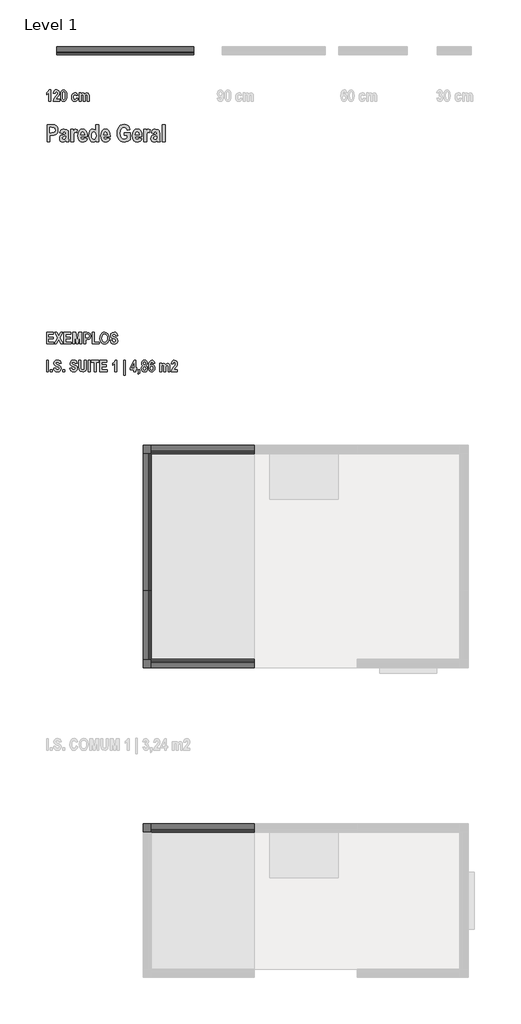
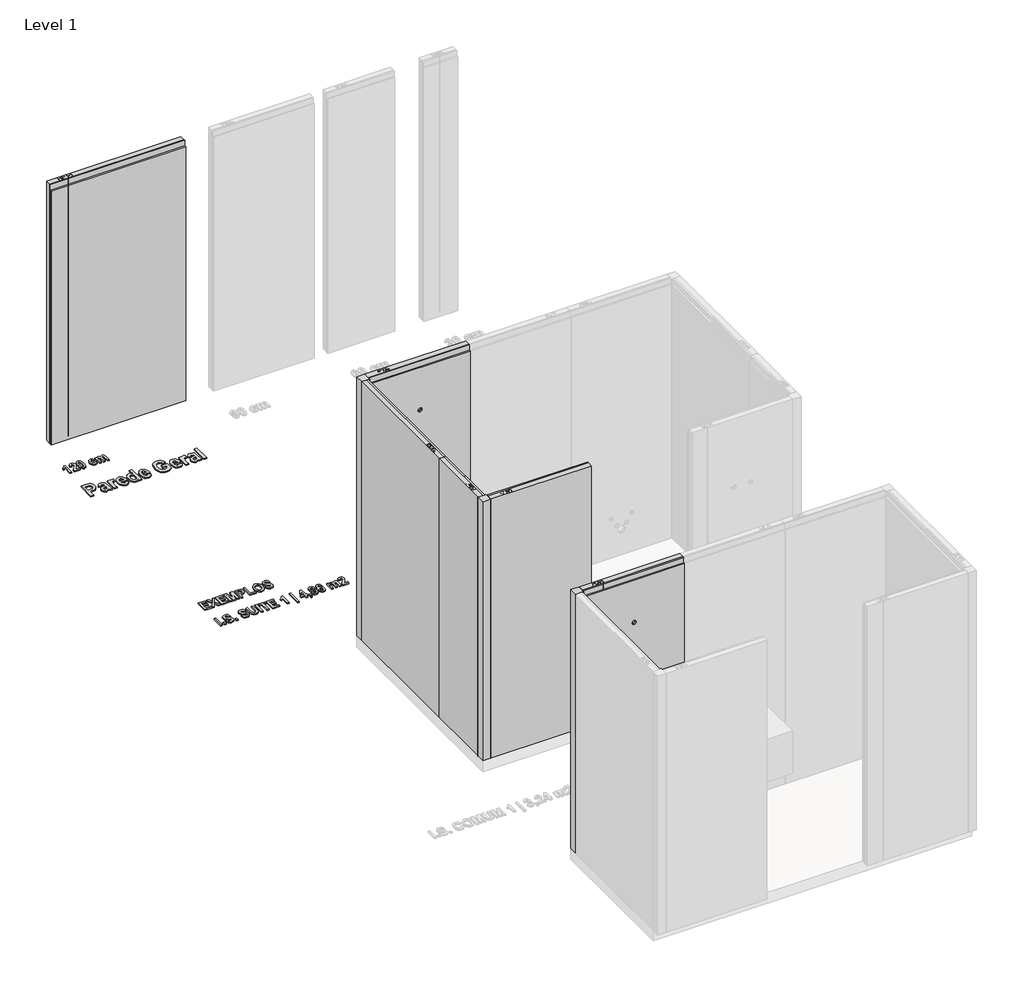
# One storey, part 4 of 10: 13 proxies.
"""IFC4 building model written with IfcOpenShell, lengths in millimetres."""

from ifc_helpers import new_model, si_unit, origin, origin_with_axes, place, context, project, spatial, polyline, outline, extrude, transform, mapped, element, save
from components import generic_models_3c551f1f, generic_models_87fa6935, generic_models_8d7f3108, generic_models_87e237a0, generic_models_7c24a650

model = new_model("IFC4")

# Units and contexts
model_context = context("Model", 3, world=origin())
ifc_project = project(units=[si_unit("LENGTHUNIT", "METRE", prefix="MILLI")], contexts=[model_context])

# Site, building, storey
site = spatial("IfcSite", under=ifc_project)
building = spatial("IfcBuilding", under=site)
storey = spatial("IfcBuildingStorey", under=building, Name="Level 1", Elevation=0.0)

# Proxies
placement = place(None, origin())
generic_models_shape = generic_models_3c551f1f(model_context)
element("IfcBuildingElementProxy", 1, Name="ParedeGeral_Blufab : Parede Geral - Largura 60 cm", ObjectType="ParedeGeral_Blufab : Parede Geral - Largura 60 cm", at=placement, inside=storey, context=model_context, shape_type="MappedRepresentation", body=[
    mapped(generic_models_shape, transform((-8771.3404571, 2627.3727477, 0.0), x_axis=(0.0, 1.0, 0.0), y_axis=(-1.0, 0.0, 0.0), z_axis=(0.0, 0.0, 1.0))),
])
generic_models_2_shape = generic_models_87fa6935(model_context)
element("IfcBuildingElementProxy", 2, Name="ParedeGeral_Blufab : Parede Geral - Largura 120 cm", ObjectType="ParedeGeral_Blufab : Parede Geral - Largura 120 cm", at=placement, inside=storey, context=model_context, shape_type="MappedRepresentation", body=[
    mapped(generic_models_2_shape, transform((-9600.8727752, 7918.7563997, 0.0), x_axis=(1.0, 0.0, 0.0), y_axis=(0.0, 1.0, 0.0), z_axis=(0.0, 0.0, 1.0))),
])
element("IfcBuildingElementProxy", 3, Name="ParedeGeral_Blufab : Parede Geral - Largura 120 cm", ObjectType="ParedeGeral_Blufab : Parede Geral - Largura 120 cm", at=placement, inside=storey, context=model_context, shape_type="MappedRepresentation", body=[
    mapped(generic_models_2_shape, transform((-8771.3404571, 3227.3727477, 0.0), x_axis=(0.0, 1.0, 0.0), y_axis=(-1.0, 0.0, 0.0), z_axis=(0.0, 0.0, 1.0))),
])
generic_models_3_shape = generic_models_8d7f3108(model_context)
element("IfcBuildingElementProxy", 4, Name="ParedeDuche_Blufab : Parede Duche- Largura 90 cm", ObjectType="ParedeDuche_Blufab : Parede Duche- Largura 90 cm", at=placement, inside=storey, context=model_context, shape_type="MappedRepresentation", body=[
    mapped(generic_models_3_shape, transform((-8771.3404571, 4427.3727477, 0.0), x_axis=(1.0, 0.0, 0.0), y_axis=(0.0, 1.0, 0.0), z_axis=(0.0, 0.0, 1.0))),
])
element("IfcBuildingElementProxy", 5, Name="ParedeDuche_Blufab : Parede Duche- Largura 90 cm", ObjectType="ParedeDuche_Blufab : Parede Duche- Largura 90 cm", at=placement, inside=storey, context=model_context, shape_type="MappedRepresentation", body=[
    mapped(generic_models_3_shape, transform((-8771.3404571, 1114.1909428, 0.0), x_axis=(1.0, 0.0, 0.0), y_axis=(0.0, 1.0, 0.0), z_axis=(0.0, 0.0, 1.0))),
])
generic_models_4_shape = generic_models_87e237a0(model_context)
element("IfcBuildingElementProxy", 6, Name="PerfilCanto_Blufab : Parede Geral - Largura 60 cm", ObjectType="PerfilCanto_Blufab : Parede Geral - Largura 60 cm", at=placement, inside=storey, context=model_context, shape_type="MappedRepresentation", body=[
    mapped(generic_models_4_shape, transform((-8844.3404571, 4427.3727477, 0.0), x_axis=(1.0, 0.0, 0.0), y_axis=(0.0, 1.0, 0.0), z_axis=(0.0, 0.0, 1.0))),
])
element("IfcBuildingElementProxy", 7, Name="PerfilCanto_Blufab : Parede Geral - Largura 60 cm", ObjectType="PerfilCanto_Blufab : Parede Geral - Largura 60 cm", at=placement, inside=storey, context=model_context, shape_type="MappedRepresentation", body=[
    mapped(generic_models_4_shape, transform((-8844.3404571, 2554.3727477, 0.0), x_axis=(1.0, 0.0, 0.0), y_axis=(0.0, 1.0, 0.0), z_axis=(0.0, 0.0, 1.0))),
])
element("IfcBuildingElementProxy", 8, Name="PerfilCanto_Blufab : Parede Geral - Largura 60 cm", ObjectType="PerfilCanto_Blufab : Parede Geral - Largura 60 cm", at=placement, inside=storey, context=model_context, shape_type="MappedRepresentation", body=[
    mapped(generic_models_4_shape, transform((-8844.3404571, 1114.1909428, 0.0), x_axis=(1.0, 0.0, 0.0), y_axis=(0.0, 1.0, 0.0), z_axis=(0.0, 0.0, 1.0))),
])
generic_models_5_shape = generic_models_7c24a650(model_context)
element("IfcBuildingElementProxy", 9, Name="ParedeGeral_Blufab : Parede Geral - Largura 90 cm", ObjectType="ParedeGeral_Blufab : Parede Geral - Largura 90 cm", at=placement, inside=storey, context=model_context, shape_type="MappedRepresentation", body=[
    mapped(generic_models_5_shape, transform((-8771.3404571, 2627.3727477, 0.0), x_axis=(1.0, 0.0, 0.0), y_axis=(0.0, 1.0, 0.0), z_axis=(0.0, 0.0, 1.0))),
])
element("IfcBuildingElementProxy", 10, Name="24\" Arial", ObjectType="24\" Arial", at=placement, inside=storey, context=model_context, shape_type="SweptSolid", body=[
    extrude(outline(polyline([(-9652.6551906, 7512.8748163), (-9668.9001267, 7512.8748163), (-9668.9001267, 7585.9770287), (-9688.39405, 7571.3565863), (-9688.39405, 7589.226016), (-9674.9285209, 7598.3891752), (-9665.245016, 7613.5934201), (-9652.6551906, 7613.5934201), (-9652.6551906, 7512.8748163)])), origin_with_axes(), (0.0, 0.0, 1.0), 10.0),
    extrude(outline(polyline([(-9576.303991, 7529.1197524), (-9576.303991, 7512.8748163), (-9631.5367737, 7512.8748163), (-9626.1556386, 7532.0768385), (-9608.6923323, 7555.9746624), (-9596.0517414, 7571.9150059), (-9592.548927, 7584.1240907), (-9595.3790995, 7594.0106573), (-9602.803543, 7597.348484), (-9610.5579617, 7593.6933734), (-9613.667344, 7582.7280415), (-9629.9122801, 7584.3525351), (-9627.0503792, 7597.446842), (-9621.3583059, 7606.5243346), (-9613.0771959, 7611.8261487), (-9602.448185, 7613.5934201), (-9591.0735569, 7611.4485809), (-9582.8908049, 7605.0140632), (-9577.9506944, 7595.8064842), (-9576.303991, 7585.3424609), (-9577.97925, 7573.1714502), (-9583.144632, 7561.3050321), (-9594.7826058, 7546.0754045), (-9604.3899625, 7534.5516529), (-9607.6516411, 7529.1197524), (-9576.303991, 7529.1197524)])), origin_with_axes(), (0.0, 0.0, 1.0), 10.0),
    extrude(outline(polyline([(-9539.7782675, 7613.5934201), (-9528.9208121, 7610.7473834), (-9520.3604923, 7602.2092735), (-9514.8016782, 7586.564004), (-9512.9487402, 7562.3964887), (-9514.8016782, 7538.2670475), (-9520.3604923, 7522.6344693), (-9528.9081208, 7514.0963594), (-9539.727502, 7511.2503227), (-9550.5849574, 7514.0709767), (-9559.1452772, 7522.5329385), (-9564.7040913, 7538.1908994), (-9566.5570293, 7562.5995504), (-9564.7040913, 7586.6147694), (-9559.1452772, 7602.2092735), (-9550.5976487, 7610.7473834), (-9539.7782675, 7613.5934201)]), holes=[polyline([(-9539.7528848, 7597.348484), (-9547.4438467, 7591.256633), (-9550.3120932, 7562.3964887), (-9547.4438467, 7533.5617271), (-9539.7528848, 7527.4952588), (-9532.0238488, 7533.5871099), (-9529.1936763, 7562.3964887), (-9532.0238488, 7591.256633), (-9539.7528848, 7597.348484)])]), origin_with_axes(), (0.0, 0.0, 1.0), 10.0),
    extrude(outline(polyline([(-9415.4791237, 7564.8586118), (-9431.7240598, 7561.6096246), (-9435.1316889, 7568.9198458), (-9442.0548238, 7571.3565863), (-9451.0529954, 7566.5719449), (-9454.4669703, 7550.4158483), (-9451.1672176, 7532.6733322), (-9442.3340336, 7527.4952588), (-9435.5314667, 7530.3635053), (-9431.7240598, 7540.4912077), (-9415.4791237, 7537.2422205), (-9418.932759, 7525.8707652), (-9424.5978632, 7517.7482972), (-9432.4744362, 7512.8748163), (-9442.5624781, 7511.2503227), (-9455.0285628, 7514.0360754), (-9463.7951172, 7522.3933336), (-9468.9827091, 7534.6722208), (-9470.7119064, 7549.2228608), (-9468.7257091, 7565.7596981), (-9462.7671173, 7577.8037953), (-9453.584921, 7585.1520906), (-9441.9279102, 7587.6015223), (-9432.4601584, 7586.2403744), (-9424.9214928, 7582.1569305), (-9415.4791237, 7564.8586118)])), origin_with_axes(), (0.0, 0.0, 1.0), 10.0),
    extrude(outline(polyline([(-9404.1076684, 7585.9770287), (-9389.4872259, 7585.9770287), (-9389.4872259, 7576.0777708), (-9380.9332518, 7584.7459672), (-9370.8816976, 7587.6015223), (-9360.9443656, 7584.7332758), (-9354.0529591, 7576.0523881), (-9345.5497504, 7584.7332758), (-9335.8789368, 7587.6015223), (-9325.3831852, 7584.6825104), (-9318.682149, 7576.3189066), (-9316.3850135, 7559.6043903), (-9316.3850135, 7512.8748163), (-9332.6299496, 7512.8748163), (-9332.6299496, 7553.6394528), (-9334.495579, 7567.8283892), (-9340.7524177, 7571.3565863), (-9349.0017993, 7566.4196487), (-9352.1238729, 7547.1160957), (-9352.1238729, 7512.8748163), (-9368.368809, 7512.8748163), (-9368.368809, 7551.9641938), (-9369.6125619, 7566.9146115), (-9376.2882154, 7571.3565863), (-9382.50698, 7569.0721421), (-9386.606288, 7562.3964887), (-9387.8627323, 7547.5222191), (-9387.8627323, 7512.8748163), (-9404.1076684, 7512.8748163), (-9404.1076684, 7585.9770287)])), origin_with_axes(), (0.0, 0.0, 1.0), 10.0),
])
element("IfcBuildingElementProxy", 11, Name="24\" Arial", ObjectType="24\" Arial", at=placement, inside=storey, context=model_context, shape_type="SweptSolid", body=[
    extrude(outline(polyline([(-9690.0185436, 5388.6216532), (-9690.0185436, 5489.340257), (-9629.9122801, 5489.340257), (-9629.9122801, 5473.0953209), (-9673.7736075, 5473.0953209), (-9673.7736075, 5448.7279168), (-9633.1612673, 5448.7279168), (-9633.1612673, 5432.4829807), (-9673.7736075, 5432.4829807), (-9673.7736075, 5404.8665893), (-9628.2877864, 5404.8665893), (-9628.2877864, 5388.6216532), (-9690.0185436, 5388.6216532)])), origin_with_axes(), (0.0, 0.0, 1.0), 10.0),
    extrude(outline(polyline([(-9621.789812, 5388.6216532), (-9592.7012233, 5441.9507325), (-9618.5408248, 5489.340257), (-9600.3668025, 5489.340257), (-9583.6142122, 5458.6271747), (-9566.8616219, 5489.340257), (-9548.6875996, 5489.340257), (-9574.5272011, 5441.9507325), (-9545.4386124, 5388.6216532), (-9563.6126346, 5388.6216532), (-9583.6142122, 5425.299673), (-9603.6157898, 5388.6216532), (-9621.789812, 5388.6216532)])), origin_with_axes(), (0.0, 0.0, 1.0), 10.0),
    extrude(outline(polyline([(-9537.3161443, 5388.6216532), (-9537.3161443, 5489.340257), (-9477.2098808, 5489.340257), (-9477.2098808, 5473.0953209), (-9521.0712083, 5473.0953209), (-9521.0712083, 5448.7279168), (-9480.458868, 5448.7279168), (-9480.458868, 5432.4829807), (-9521.0712083, 5432.4829807), (-9521.0712083, 5404.8665893), (-9475.5853872, 5404.8665893), (-9475.5853872, 5388.6216532), (-9537.3161443, 5388.6216532)])), origin_with_axes(), (0.0, 0.0, 1.0), 10.0),
    extrude(outline(polyline([(-9460.9649447, 5388.6216532), (-9460.9649447, 5489.340257), (-9434.1100348, 5489.340257), (-9421.1648513, 5419.0047603), (-9407.8643099, 5489.340257), (-9381.3647579, 5489.340257), (-9381.3647579, 5388.6216532), (-9397.609694, 5388.6216532), (-9397.609694, 5469.5417411), (-9412.9916178, 5388.6216532), (-9429.7949736, 5388.6216532), (-9444.7200086, 5469.5417411), (-9444.7200086, 5388.6216532), (-9460.9649447, 5388.6216532)])), origin_with_axes(), (0.0, 0.0, 1.0), 10.0),
    extrude(outline(polyline([(-9365.1198218, 5388.6216532), (-9365.1198218, 5489.340257), (-9338.2902945, 5489.340257), (-9318.6948404, 5487.8934424), (-9306.5492124, 5477.8291968), (-9301.7645711, 5457.9672242), (-9305.9273359, 5439.4886094), (-9316.3342481, 5429.005549), (-9337.8334057, 5425.9850062), (-9348.8748857, 5425.9850062), (-9348.8748857, 5388.6216532), (-9365.1198218, 5388.6216532)]), holes=[polyline([(-9348.8748857, 5473.0953209), (-9348.8748857, 5442.2299423), (-9339.2040722, 5442.2299423), (-9325.9796789, 5443.6386829), (-9320.2431859, 5448.7152254), (-9318.0095071, 5457.7387798), (-9320.319334, 5466.8638649), (-9326.017753, 5471.8388766), (-9340.371677, 5473.0953209), (-9348.8748857, 5473.0953209)])]), origin_with_axes(), (0.0, 0.0, 1.0), 10.0),
    extrude(outline(polyline([(-9288.7686222, 5388.6216532), (-9288.7686222, 5489.340257), (-9272.5236861, 5489.340257), (-9272.5236861, 5404.8665893), (-9230.2868523, 5404.8665893), (-9230.2868523, 5388.6216532), (-9288.7686222, 5388.6216532)])), origin_with_axes(), (0.0, 0.0, 1.0), 10.0),
    extrude(outline(polyline([(-9222.1643842, 5438.37177), (-9216.8720886, 5467.9553216), (-9203.0512016, 5485.2663316), (-9193.6151782, 5489.5401459), (-9182.3642908, 5490.9647506), (-9166.3795275, 5487.585677), (-9153.6564428, 5477.4484561), (-9145.3372587, 5461.0734336), (-9142.5641974, 5438.9809551), (-9145.5022464, 5416.5045631), (-9154.3163933, 5399.5362197), (-9166.4620213, 5390.1319246), (-9182.2881427, 5386.9971596), (-9198.2284862, 5390.1001963), (-9210.4121883, 5399.4093061), (-9219.2263352, 5416.2443903), (-9222.1643842, 5438.37177)]), holes=[polyline([(-9205.9194481, 5439.0571033), (-9204.2188064, 5424.0908213), (-9199.1168811, 5413.4078721), (-9191.5020673, 5407.00191), (-9182.2627599, 5404.8665893), (-9173.0012427, 5406.9860458), (-9165.4720955, 5413.3444153), (-9160.474874, 5424.0939942), (-9158.8091335, 5439.3870785), (-9160.4304542, 5454.3723975), (-9165.2944165, 5464.8586307), (-9172.7791439, 5471.0361483), (-9182.2627599, 5473.0953209), (-9191.7717587, 5471.0171113), (-9199.3326342, 5464.7824825), (-9204.2727446, 5454.1947185), (-9205.9194481, 5439.0571033)])]), origin_with_axes(), (0.0, 0.0, 1.0), 10.0),
    extrude(outline(polyline([(-9132.8172357, 5421.1115254), (-9116.5722996, 5422.736019), (-9110.7152387, 5409.3339468), (-9098.6267218, 5404.8665893), (-9086.772995, 5408.6232308), (-9082.4579338, 5417.9133036), (-9083.9808966, 5423.446735), (-9088.625933, 5427.2033765), (-9103.5002026, 5432.4068325), (-9118.8948178, 5439.5139921), (-9126.6746193, 5449.4640154), (-9129.5682485, 5462.7391741), (-9125.8242984, 5477.6007524), (-9115.4935343, 5487.5888498), (-9099.2105242, 5490.9647506), (-9086.2589951, 5489.0705657), (-9076.4929964, 5483.3880109), (-9070.2425034, 5474.1836047), (-9067.8374914, 5461.7238656), (-9084.0824275, 5460.099372), (-9088.8289947, 5470.214383), (-9099.2612896, 5473.0953209), (-9109.6682018, 5470.3539879), (-9113.3233124, 5463.551421), (-9110.4550659, 5456.8250021), (-9095.8853888, 5450.4031758), (-9077.8636629, 5442.5091522), (-9069.2081578, 5432.3687585), (-9066.2129978, 5417.2787358), (-9068.2150592, 5405.4821201), (-9074.2212436, 5395.7288128), (-9084.4917237, 5389.1800729), (-9099.2866723, 5386.9971596), (-9112.6808125, 5389.1293075), (-9122.7339531, 5395.5257511), (-9129.4460942, 5406.1864904), (-9132.8172357, 5421.1115254)])), origin_with_axes(), (0.0, 0.0, 1.0), 10.0),
])
element("IfcBuildingElementProxy", 12, Name="24\" Arial", ObjectType="24\" Arial", at=placement, inside=storey, context=model_context, shape_type="SweptSolid", body=[
    extrude(outline(polyline([(-9690.0185436, 5144.3634386), (-9690.0185436, 5245.0820423), (-9673.7736075, 5245.0820423), (-9673.7736075, 5144.3634386), (-9690.0185436, 5144.3634386)])), origin_with_axes(), (0.0, 0.0, 1.0), 10.0),
    extrude(outline(polyline([(-9657.5286714, 5144.3634386), (-9657.5286714, 5163.8573619), (-9641.2837353, 5163.8573619), (-9641.2837353, 5144.3634386), (-9657.5286714, 5144.3634386)])), origin_with_axes(), (0.0, 0.0, 1.0), 10.0),
    extrude(outline(polyline([(-9628.2877864, 5176.8533108), (-9612.0428504, 5178.4778044), (-9606.1857894, 5165.0757321), (-9594.0972725, 5160.6083747), (-9582.2435457, 5164.3650161), (-9577.9284846, 5173.655089), (-9579.4514473, 5179.1885203), (-9584.0964837, 5182.9451618), (-9598.9707533, 5188.1486179), (-9614.3653686, 5195.2557774), (-9622.14517, 5205.2058008), (-9625.0387992, 5218.4809595), (-9621.2948491, 5233.3425377), (-9610.9640851, 5243.3306352), (-9594.6810749, 5246.7065359), (-9581.7295458, 5244.812351), (-9571.9635471, 5239.1297962), (-9565.7130541, 5229.92539), (-9563.3080421, 5217.465651), (-9579.5529782, 5215.8411574), (-9584.2995454, 5225.9561684), (-9594.7318403, 5228.8371062), (-9605.1387525, 5226.0957733), (-9608.7938631, 5219.2932063), (-9605.9256166, 5212.5667874), (-9591.3559396, 5206.1449611), (-9573.3342136, 5198.2509375), (-9564.6787086, 5188.1105438), (-9561.6835485, 5173.0205211), (-9563.6856099, 5161.2239054), (-9569.6917943, 5151.4705981), (-9579.9622744, 5144.9218583), (-9594.757223, 5142.738945), (-9608.1513632, 5144.8710928), (-9618.2045038, 5151.2675364), (-9624.9166449, 5161.9282757), (-9628.2877864, 5176.8533108)])), origin_with_axes(), (0.0, 0.0, 1.0), 10.0),
    extrude(outline(polyline([(-9548.6875996, 5144.3634386), (-9548.6875996, 5163.8573619), (-9532.4426635, 5163.8573619), (-9532.4426635, 5144.3634386), (-9548.6875996, 5144.3634386)])), origin_with_axes(), (0.0, 0.0, 1.0), 10.0),
    extrude(outline(polyline([(-9486.9568425, 5176.8533108), (-9470.7119064, 5178.4778044), (-9464.8548454, 5165.0757321), (-9452.7663285, 5160.6083747), (-9440.9126017, 5164.3650161), (-9436.5975406, 5173.655089), (-9438.1205033, 5179.1885203), (-9442.7655398, 5182.9451618), (-9457.6398094, 5188.1486179), (-9473.0344246, 5195.2557774), (-9480.814226, 5205.2058008), (-9483.7078552, 5218.4809595), (-9479.9639051, 5233.3425377), (-9469.6331411, 5243.3306352), (-9453.3501309, 5246.7065359), (-9440.3986018, 5244.812351), (-9430.6326031, 5239.1297962), (-9424.3821101, 5229.92539), (-9421.9770981, 5217.465651), (-9438.2220342, 5215.8411574), (-9442.9686015, 5225.9561684), (-9453.4008964, 5228.8371062), (-9463.8078085, 5226.0957733), (-9467.4629192, 5219.2932063), (-9464.5946726, 5212.5667874), (-9450.0249956, 5206.1449611), (-9432.0032696, 5198.2509375), (-9423.3477646, 5188.1105438), (-9420.3526045, 5173.0205211), (-9422.354666, 5161.2239054), (-9428.3608503, 5151.4705981), (-9438.6313304, 5144.9218583), (-9453.4262791, 5142.738945), (-9466.8204192, 5144.8710928), (-9476.8735599, 5151.2675364), (-9483.5857009, 5161.9282757), (-9486.9568425, 5176.8533108)])), origin_with_axes(), (0.0, 0.0, 1.0), 10.0),
    extrude(outline(polyline([(-9407.3566556, 5245.0820423), (-9391.1117195, 5245.0820423), (-9391.1117195, 5190.9153336), (-9390.5025344, 5174.4673358), (-9385.2483129, 5164.2254112), (-9374.3083638, 5160.6083747), (-9364.9294515, 5163.1720286), (-9359.9544398, 5170.2664968), (-9358.6218474, 5189.7477288), (-9358.6218474, 5245.0820423), (-9342.3769113, 5245.0820423), (-9342.3769113, 5192.2352346), (-9344.5090591, 5162.9562756), (-9347.9801451, 5154.7893878), (-9354.1291072, 5148.3358331), (-9362.8099949, 5144.138167), (-9373.8768577, 5142.738945), (-9393.764213, 5147.37129), (-9404.1330511, 5160.4180043), (-9407.3566556, 5191.3976051), (-9407.3566556, 5245.0820423)])), origin_with_axes(), (0.0, 0.0, 1.0), 10.0),
    extrude(outline(polyline([(-9324.5074816, 5144.3634386), (-9324.5074816, 5245.0820423), (-9308.2625455, 5245.0820423), (-9308.2625455, 5144.3634386), (-9324.5074816, 5144.3634386)])), origin_with_axes(), (0.0, 0.0, 1.0), 10.0),
    extrude(outline(polyline([(-9272.5236861, 5144.3634386), (-9272.5236861, 5228.8371062), (-9296.8910902, 5228.8371062), (-9296.8910902, 5245.0820423), (-9231.9113459, 5245.0820423), (-9231.9113459, 5228.8371062), (-9256.27875, 5228.8371062), (-9256.27875, 5144.3634386), (-9272.5236861, 5144.3634386)])), origin_with_axes(), (0.0, 0.0, 1.0), 10.0),
    extrude(outline(polyline([(-9222.1643842, 5144.3634386), (-9222.1643842, 5245.0820423), (-9162.0581207, 5245.0820423), (-9162.0581207, 5228.8371062), (-9205.9194481, 5228.8371062), (-9205.9194481, 5204.4697021), (-9165.3071079, 5204.4697021), (-9165.3071079, 5188.224766), (-9205.9194481, 5188.224766), (-9205.9194481, 5160.6083747), (-9160.4336271, 5160.6083747), (-9160.4336271, 5144.3634386), (-9222.1643842, 5144.3634386)])), origin_with_axes(), (0.0, 0.0, 1.0), 10.0),
    extrude(outline(polyline([(-9075.9599594, 5144.3634386), (-9092.2048955, 5144.3634386), (-9092.2048955, 5217.465651), (-9111.6988188, 5202.8452085), (-9111.6988188, 5220.7146382), (-9098.2332898, 5229.8777975), (-9088.5497849, 5245.0820423), (-9075.9599594, 5245.0820423), (-9075.9599594, 5144.3634386)])), origin_with_axes(), (0.0, 0.0, 1.0), 10.0),
    extrude(outline(polyline([(-9015.8536959, 5115.1225536), (-9015.8536959, 5246.7065359), (-9002.857747, 5246.7065359), (-9002.857747, 5115.1225536), (-9015.8536959, 5115.1225536)])), origin_with_axes(), (0.0, 0.0, 1.0), 10.0),
    extrude(outline(polyline([(-8924.8820538, 5144.3634386), (-8924.8820538, 5163.8573619), (-8957.371926, 5163.8573619), (-8957.371926, 5180.0261498), (-8922.7752886, 5245.0820423), (-8908.6371177, 5245.0820423), (-8908.6371177, 5180.102298), (-8898.890156, 5180.102298), (-8898.890156, 5163.8573619), (-8908.6371177, 5163.8573619), (-8908.6371177, 5144.3634386), (-8924.8820538, 5144.3634386)]), holes=[polyline([(-8924.8820538, 5180.102298), (-8924.8820538, 5215.1050587), (-8943.1068415, 5180.102298), (-8924.8820538, 5180.102298)])]), origin_with_axes(), (0.0, 0.0, 1.0), 10.0),
    extrude(outline(polyline([(-8889.1431944, 5163.8573619), (-8872.8982583, 5163.8573619), (-8872.8982583, 5149.8968699), (-8875.7918875, 5132.2558846), (-8887.6963798, 5121.6205281), (-8890.767688, 5129.5399344), (-8883.4193927, 5134.83223), (-8881.0207263, 5144.3634386), (-8889.1431944, 5144.3634386), (-8889.1431944, 5163.8573619)])), origin_with_axes(), (0.0, 0.0, 1.0), 10.0),
    extrude(outline(polyline([(-8845.5103114, 5198.5047646), (-8855.0669027, 5206.7160722), (-8858.2778158, 5219.2170581), (-8856.5676556, 5229.8587604), (-8851.4371748, 5238.0764136), (-8843.4130647, 5243.3306352), (-8833.0220167, 5245.0820423), (-8822.2216725, 5243.2100673), (-8814.3403402, 5237.5941421), (-8809.5239705, 5229.2939951), (-8807.9185139, 5219.3693544), (-8811.3832542, 5206.6779981), (-8820.8383147, 5198.5047646), (-8809.9110569, 5188.9227906), (-8806.2940203, 5173.7312371), (-8809.7206865, 5157.3466961), (-8819.175747, 5146.4955864), (-8832.7174242, 5142.738945), (-8843.4923857, 5144.7949447), (-8852.2113475, 5150.9629439), (-8857.9795689, 5160.6147203), (-8859.9023094, 5173.122052), (-8856.183742, 5188.6181981), (-8845.5103114, 5198.5047646)]), holes=[polyline([(-8842.0328797, 5217.5671818), (-8839.2915468, 5209.0639731), (-8832.3620662, 5206.0941957), (-8825.3183635, 5209.0639731), (-8822.5389564, 5217.5671818), (-8825.2802894, 5225.8673289), (-8832.1590045, 5228.8371062), (-8839.2534727, 5225.8419461), (-8842.0328797, 5217.5671818)]), polyline([(-8843.6573733, 5175.1019036), (-8840.509917, 5163.1720286), (-8832.9458686, 5158.9838811), (-8825.5341165, 5162.9816583), (-8822.5389564, 5174.97499), (-8825.5975733, 5185.8514824), (-8833.1235476, 5189.8492596), (-8840.5987565, 5185.8134083), (-8843.6573733, 5175.1019036)])]), origin_with_axes(), (0.0, 0.0, 1.0), 10.0),
    extrude(outline(polyline([(-8744.5632632, 5219.0901446), (-8760.8081993, 5217.465651), (-8763.4670384, 5225.9942424), (-8769.3621734, 5228.8371062), (-8777.4719501, 5223.3036749), (-8781.5458755, 5200.8653569), (-8774.9717529, 5207.2237264), (-8766.9761985, 5209.3431829), (-8757.9272614, 5207.1031585), (-8750.1220773, 5200.3830854), (-8744.7345965, 5189.9444448), (-8742.9387696, 5176.5487182), (-8744.7917076, 5162.4391028), (-8750.3505217, 5151.7371166), (-8758.644323, 5144.9884879), (-8768.7022229, 5142.738945), (-8779.702456, 5145.6706483), (-8788.6403437, 5154.4657582), (-8794.5703799, 5170.0443981), (-8796.5470587, 5193.3266913), (-8794.4974046, 5217.0246263), (-8788.3484425, 5232.9871798), (-8778.9822215, 5242.0583267), (-8767.280791, 5245.0820423), (-8759.1139032, 5243.4702401), (-8752.3303733, 5238.6348333), (-8747.3426702, 5230.5250566), (-8744.5632632, 5219.0901446)]), holes=[polyline([(-8780.3021226, 5177.1579033), (-8776.8881477, 5163.6543002), (-8769.0829636, 5158.9838811), (-8762.0011868, 5162.8547447), (-8759.1837057, 5175.5587924), (-8762.2423225, 5188.9100993), (-8769.8190623, 5193.0982468), (-8777.2435057, 5189.1004696), (-8780.3021226, 5177.1579033)])]), origin_with_axes(), (0.0, 0.0, 1.0), 10.0),
    extrude(outline(polyline([(-8697.4529485, 5217.465651), (-8682.8325061, 5217.465651), (-8682.8325061, 5207.566393), (-8674.2785319, 5216.2345894), (-8664.2269777, 5219.0901446), (-8654.2896457, 5216.2218981), (-8647.3982392, 5207.5410103), (-8638.8950305, 5216.2218981), (-8629.224217, 5219.0901446), (-8618.7284653, 5216.1711326), (-8612.0274291, 5207.8075288), (-8609.7302937, 5191.0930125), (-8609.7302937, 5144.3634386), (-8625.9752297, 5144.3634386), (-8625.9752297, 5185.1280751), (-8627.8408591, 5199.3170114), (-8634.0976978, 5202.8452085), (-8642.3470794, 5197.9082709), (-8645.469153, 5178.6047179), (-8645.469153, 5144.3634386), (-8661.7140891, 5144.3634386), (-8661.7140891, 5183.452816), (-8662.9578421, 5198.4032338), (-8669.6334955, 5202.8452085), (-8675.8522601, 5200.5607644), (-8679.9515682, 5193.8851109), (-8681.2080124, 5179.0108413), (-8681.2080124, 5144.3634386), (-8697.4529485, 5144.3634386), (-8697.4529485, 5217.465651)])), origin_with_axes(), (0.0, 0.0, 1.0), 10.0),
    extrude(outline(polyline([(-8544.7505493, 5160.6083747), (-8544.7505493, 5144.3634386), (-8599.983332, 5144.3634386), (-8594.6021969, 5163.5654607), (-8577.1388906, 5187.4632846), (-8564.4982997, 5203.4036282), (-8560.9954854, 5215.612713), (-8563.8256578, 5225.4992795), (-8571.2501013, 5228.8371062), (-8579.00452, 5225.1819956), (-8582.1139023, 5214.2166638), (-8598.3588384, 5215.8411574), (-8595.4969375, 5228.9354643), (-8589.8048642, 5238.0129569), (-8581.5237542, 5243.314771), (-8570.8947433, 5245.0820423), (-8559.5201152, 5242.9372031), (-8551.3373632, 5236.5026855), (-8546.3972528, 5227.2951064), (-8544.7505493, 5216.8310832), (-8546.4258083, 5204.6600725), (-8551.5911904, 5192.7936543), (-8563.2291641, 5177.5640267), (-8572.8365208, 5166.0402752), (-8576.0981994, 5160.6083747), (-8544.7505493, 5160.6083747)])), origin_with_axes(), (0.0, 0.0, 1.0), 10.0),
])
element("IfcBuildingElementProxy", 13, Name="24\" Arial 2", ObjectType="24\" Arial 2", at=placement, inside=storey, context=model_context, shape_type="SweptSolid", body=[
    extrude(outline(polyline([(-9685.9573096, 7157.133031), (-9685.9573096, 7308.2109366), (-9645.7130187, 7308.2109366), (-9616.3198374, 7306.0407147), (-9606.2444869, 7300.4961784), (-9598.1013954, 7290.9443464), (-9592.7186739, 7277.7183667), (-9590.9244334, 7261.1513874), (-9592.4854703, 7245.9598339), (-9597.1685807, 7233.4334652), (-9604.1932465, 7223.9054294), (-9612.778949, 7217.7088747), (-9625.5242436, 7214.3107641), (-9645.0276854, 7213.1780605), (-9661.5899054, 7213.1780605), (-9661.5899054, 7157.133031), (-9685.9573096, 7157.133031)]), holes=[polyline([(-9661.5899054, 7283.8435325), (-9661.5899054, 7237.5454646), (-9647.0836852, 7237.5454646), (-9627.2470952, 7239.6585755), (-9618.6423556, 7247.2733893), (-9615.2918376, 7260.8087208), (-9618.7565778, 7274.4963486), (-9627.3042063, 7281.9588661), (-9648.8350923, 7283.8435325), (-9661.5899054, 7283.8435325)])]), origin_with_axes(), (0.0, 0.0, 1.0), 10.0),
    extrude(outline(polyline([(-9549.4998464, 7230.2352434), (-9573.8672505, 7235.1087242), (-9568.7558068, 7250.7476481), (-9561.1124374, 7261.2656096), (-9550.2613278, 7267.2337199), (-9535.5266631, 7269.22309), (-9512.853555, 7264.9968684), (-9501.6788158, 7253.4794625), (-9498.3282977, 7226.9989475), (-9498.5567421, 7193.1511002), (-9497.4716312, 7171.9438438), (-9493.4548169, 7157.133031), (-9517.822221, 7157.133031), (-9520.7919984, 7169.0121405), (-9533.3564412, 7158.2752531), (-9547.596143, 7154.6962906), (-9559.0849933, 7156.876031), (-9568.2703624, 7163.4152524), (-9574.2955838, 7173.5715103), (-9576.303991, 7186.6023604), (-9573.029621, 7202.6125064), (-9563.8156963, 7213.5207271), (-9544.7786619, 7220.7548002), (-9522.6957019, 7227.798503), (-9523.7808128, 7238.85902), (-9527.7785901, 7243.1804268), (-9536.021626, 7244.8556859), (-9544.4931063, 7241.7716863), (-9549.4998464, 7230.2352434)]), holes=[polyline([(-9522.6957019, 7208.3045797), (-9535.6028112, 7204.6494691), (-9548.8145132, 7199.2429513), (-9551.9365868, 7191.5900634), (-9548.4908836, 7182.6807313), (-9539.867107, 7179.0636947), (-9530.7102934, 7181.976361), (-9524.447109, 7188.8868045), (-9522.6957019, 7203.4310989), (-9522.6957019, 7208.3045797)])]), origin_with_axes(), (0.0, 0.0, 1.0), 10.0),
    extrude(outline(polyline([(-9452.0302299, 7157.133031), (-9476.397634, 7157.133031), (-9476.397634, 7266.7863496), (-9454.4669703, 7266.7863496), (-9454.4669703, 7251.3282776), (-9444.8532679, 7265.7012386), (-9435.0872692, 7269.22309), (-9420.3526045, 7263.7784982), (-9427.7008998, 7237.735835), (-9437.752454, 7242.4189455), (-9445.6528233, 7238.7828719), (-9450.5453412, 7225.6473181), (-9452.0302299, 7190.6762858), (-9452.0302299, 7157.133031)])), origin_with_axes(), (0.0, 0.0, 1.0), 10.0),
    extrude(outline(polyline([(-9356.9973538, 7191.2473968), (-9332.6299496, 7186.373916), (-9338.7075229, 7172.3483808), (-9347.4217254, 7162.4824377), (-9358.5441128, 7156.6428274), (-9371.8462406, 7154.6962906), (-9389.5221272, 7158.0277716), (-9402.6481624, 7168.0222147), (-9412.2713834, 7186.5833233), (-9415.4791237, 7211.3505052), (-9412.2904204, 7236.060576), (-9402.7243106, 7255.2879808), (-9390.3597567, 7265.7393127), (-9374.816018, 7269.22309), (-9357.8349833, 7265.6536461), (-9344.965948, 7254.9453142), (-9335.6282826, 7234.7279835), (-9332.5157274, 7206.7435429), (-9332.6299496, 7203.4310989), (-9391.1117195, 7203.4310989), (-9389.5839975, 7193.1273039), (-9385.3815722, 7185.4411013), (-9379.2754434, 7180.6580464), (-9372.036611, 7179.0636947), (-9362.6418345, 7182.1096202), (-9356.9973538, 7191.2473968)]), holes=[polyline([(-9356.9973538, 7220.4882817), (-9362.1754271, 7238.7447978), (-9373.7880182, 7244.8556859), (-9380.3557951, 7243.2660935), (-9385.819424, 7238.4973164), (-9390.6929048, 7220.4882817), (-9356.9973538, 7220.4882817)])]), origin_with_axes(), (0.0, 0.0, 1.0), 10.0),
    extrude(outline(polyline([(-9232.7235927, 7157.133031), (-9254.6542564, 7157.133031), (-9254.6542564, 7173.0860659), (-9267.5804028, 7159.2842159), (-9282.9052156, 7154.6962906), (-9297.0211766, 7158.4513456), (-9309.2143972, 7169.7165108), (-9317.638285, 7187.939712), (-9320.4462476, 7212.5688754), (-9317.7382294, 7237.1885202), (-9309.6141749, 7254.9262771), (-9297.5304173, 7265.6488868), (-9282.9432896, 7269.22309), (-9268.9891434, 7265.4347202), (-9257.0909968, 7254.0696106), (-9257.0909968, 7308.2109366), (-9232.7235927, 7308.2109366), (-9232.7235927, 7157.133031)]), holes=[polyline([(-9296.0788434, 7213.8633938), (-9293.5849919, 7192.8845818), (-9286.465141, 7182.528435), (-9276.0518831, 7179.0636947), (-9268.8320878, 7181.0673426), (-9262.6307738, 7187.0782862), (-9258.3617189, 7197.1250812), (-9256.9387005, 7211.236283), (-9258.3236448, 7226.6229661), (-9262.4784776, 7236.9933906), (-9268.7654582, 7242.8901121), (-9276.546846, 7244.8556859), (-9284.0807524, 7242.9234269), (-9290.3867701, 7237.1266499), (-9294.6558251, 7227.4463179), (-9296.0788434, 7213.8633938)])]), origin_with_axes(), (0.0, 0.0, 1.0), 10.0),
    extrude(outline(polyline([(-9157.1846399, 7191.2473968), (-9132.8172357, 7186.373916), (-9138.894809, 7172.3483808), (-9147.6090115, 7162.4824377), (-9158.7313989, 7156.6428274), (-9172.0335268, 7154.6962906), (-9189.7094133, 7158.0277716), (-9202.8354485, 7168.0222147), (-9212.4586695, 7186.5833233), (-9215.6664098, 7211.3505052), (-9212.4777065, 7236.060576), (-9202.9115967, 7255.2879808), (-9190.5470428, 7265.7393127), (-9175.0033041, 7269.22309), (-9158.0222694, 7265.6536461), (-9145.1532341, 7254.9453142), (-9135.8155687, 7234.7279835), (-9132.7030135, 7206.7435429), (-9132.8172357, 7203.4310989), (-9191.2990056, 7203.4310989), (-9189.7712836, 7193.1273039), (-9185.5688583, 7185.4411013), (-9179.4627295, 7180.6580464), (-9172.2238971, 7179.0636947), (-9162.8291206, 7182.1096202), (-9157.1846399, 7191.2473968)]), holes=[polyline([(-9157.1846399, 7220.4882817), (-9162.3627132, 7238.7447978), (-9173.9753043, 7244.8556859), (-9180.5430812, 7243.2660935), (-9186.0067101, 7238.4973164), (-9190.8801909, 7220.4882817), (-9157.1846399, 7220.4882817)])]), origin_with_axes(), (0.0, 0.0, 1.0), 10.0),
    extrude(outline(polyline([(-9010.9802151, 7213.1780605), (-9010.9802151, 7237.5454646), (-8957.371926, 7237.5454646), (-8957.371926, 7177.8833986), (-8980.1973303, 7161.549623), (-8995.0033839, 7156.4096237), (-9009.837993, 7154.6962906), (-9026.9189722, 7156.9474199), (-9041.8392479, 7163.7008079), (-9054.2466352, 7174.9421768), (-9063.7889487, 7190.6572487), (-9069.8712812, 7210.1844868), (-9071.8987254, 7232.8623542), (-9069.8617627, 7255.9637955), (-9063.7508746, 7275.4672373), (-9054.3894129, 7290.9300686), (-9042.6007293, 7301.9096782), (-9028.3277127, 7308.4631773), (-9011.513252, 7310.647677), (-8991.9051065, 7307.7064552), (-8976.6374049, 7298.8827897), (-8965.8814804, 7284.3670509), (-8959.8086664, 7264.3496092), (-8984.1760705, 7259.4761284), (-8988.1024589, 7269.8989047), (-8994.3228099, 7277.5613111), (-9002.4183088, 7282.2729772), (-9011.9701408, 7283.8435325), (-9026.3383426, 7280.7928477), (-9037.6891744, 7271.6407934), (-9045.0707845, 7256.2255547), (-9047.5313213, 7234.3853169), (-9044.8090253, 7210.7603571), (-9036.6421375, 7193.569915), (-9025.6958427, 7184.5178051), (-9011.4371039, 7181.5004351), (-8996.017106, 7184.9080643), (-8981.7393301, 7194.2171742), (-8981.7393301, 7213.1780605), (-9010.9802151, 7213.1780605)])), origin_with_axes(), (0.0, 0.0, 1.0), 10.0),
    extrude(outline(polyline([(-8879.3962327, 7191.2473968), (-8855.0288286, 7186.373916), (-8861.1064019, 7172.3483808), (-8869.8206044, 7162.4824377), (-8880.9429918, 7156.6428274), (-8894.2451196, 7154.6962906), (-8911.9210061, 7158.0277716), (-8925.0470414, 7168.0222147), (-8934.6702623, 7186.5833233), (-8937.8780027, 7211.3505052), (-8934.6892994, 7236.060576), (-8925.1231896, 7255.2879808), (-8912.7586357, 7265.7393127), (-8897.214897, 7269.22309), (-8880.2338622, 7265.6536461), (-8867.3648269, 7254.9453142), (-8858.0271615, 7234.7279835), (-8854.9146064, 7206.7435429), (-8855.0288286, 7203.4310989), (-8913.5105985, 7203.4310989), (-8911.9828765, 7193.1273039), (-8907.7804511, 7185.4411013), (-8901.6743223, 7180.6580464), (-8894.43549, 7179.0636947), (-8885.0407135, 7182.1096202), (-8879.3962327, 7191.2473968)]), holes=[polyline([(-8879.3962327, 7220.4882817), (-8884.5743061, 7238.7447978), (-8896.1868971, 7244.8556859), (-8902.754674, 7243.2660935), (-8908.2183029, 7238.4973164), (-8913.0917838, 7220.4882817), (-8879.3962327, 7220.4882817)])]), origin_with_axes(), (0.0, 0.0, 1.0), 10.0),
    extrude(outline(polyline([(-8813.6042416, 7157.133031), (-8837.9716457, 7157.133031), (-8837.9716457, 7266.7863496), (-8816.040982, 7266.7863496), (-8816.040982, 7251.3282776), (-8806.4272796, 7265.7012386), (-8796.6612809, 7269.22309), (-8781.9266162, 7263.7784982), (-8789.2749115, 7237.735835), (-8799.3264657, 7242.4189455), (-8807.226835, 7238.7828719), (-8812.1193529, 7225.6473181), (-8813.6042416, 7190.6762858), (-8813.6042416, 7157.133031)])), origin_with_axes(), (0.0, 0.0, 1.0), 10.0),
    extrude(outline(polyline([(-8750.2489908, 7230.2352434), (-8774.616395, 7235.1087242), (-8769.5049512, 7250.7476481), (-8761.8615819, 7261.2656096), (-8751.0104722, 7267.2337199), (-8736.2758075, 7269.22309), (-8713.6026995, 7264.9968684), (-8702.4279602, 7253.4794625), (-8699.0774421, 7226.9989475), (-8699.3058866, 7193.1511002), (-8698.2207756, 7171.9438438), (-8694.2039613, 7157.133031), (-8718.5713654, 7157.133031), (-8721.5411428, 7169.0121405), (-8734.1055856, 7158.2752531), (-8748.3452874, 7154.6962906), (-8759.8341377, 7156.876031), (-8769.0195068, 7163.4152524), (-8775.0447282, 7173.5715103), (-8777.0531354, 7186.6023604), (-8773.7787654, 7202.6125064), (-8764.5648408, 7213.5207271), (-8745.5278063, 7220.7548002), (-8723.4448463, 7227.798503), (-8724.5299572, 7238.85902), (-8728.5277345, 7243.1804268), (-8736.7707704, 7244.8556859), (-8745.2422508, 7241.7716863), (-8750.2489908, 7230.2352434)]), holes=[polyline([(-8723.4448463, 7208.3045797), (-8736.3519557, 7204.6494691), (-8749.5636576, 7199.2429513), (-8752.6857312, 7191.5900634), (-8749.240028, 7182.6807313), (-8740.6162514, 7179.0636947), (-8731.4594378, 7181.976361), (-8725.1962534, 7188.8868045), (-8723.4448463, 7203.4310989), (-8723.4448463, 7208.3045797)])]), origin_with_axes(), (0.0, 0.0, 1.0), 10.0),
    extrude(outline(polyline([(-8677.1467784, 7157.133031), (-8677.1467784, 7308.2109366), (-8652.7793743, 7308.2109366), (-8652.7793743, 7157.133031), (-8677.1467784, 7157.133031)])), origin_with_axes(), (0.0, 0.0, 1.0), 10.0),
])

save(model, "model.ifc")
